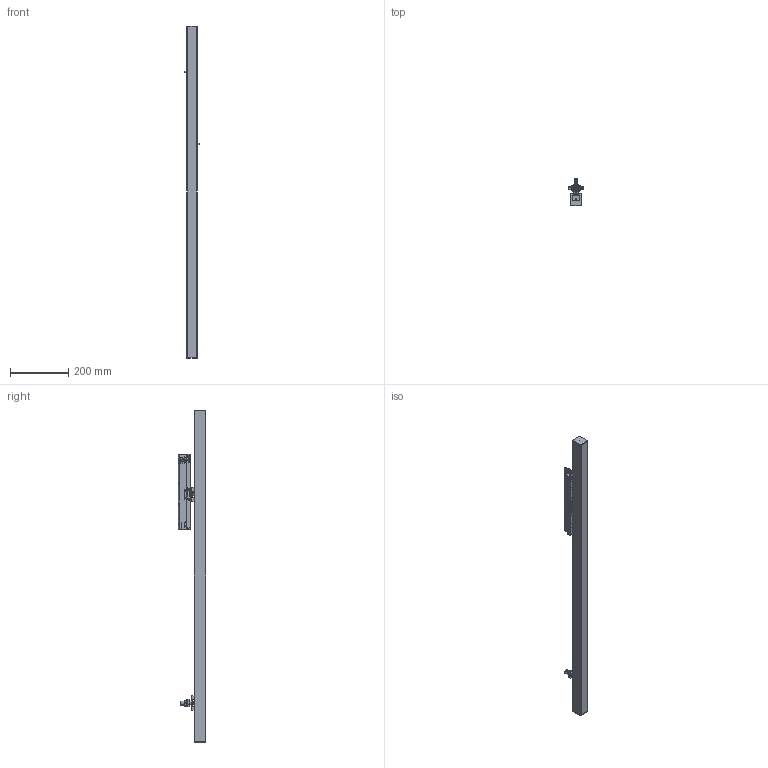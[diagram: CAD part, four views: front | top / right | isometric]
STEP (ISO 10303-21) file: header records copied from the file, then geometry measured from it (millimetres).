
FILE_DESCRIPTION (( 'STEP AP214' ), '1' );
FILE_NAME ('mLight Pico 4B 1142mm Track Module.STEP', '2024-06-04T03:30:30', ( '' ), ( '' ), 'SwSTEP 2.0', 'SolidWorks 2021', '' );
FILE_SCHEMA (( 'AUTOMOTIVE_DESIGN' ));
Length unit declared in the file: millimetre
Products named in the file (12): mLight Pico 4B 1142mm Track Module; flat head screw_am_M4 x 10mm Philips CSK; Tridonic Nipple M10 x 1mm; prevailing torque hex nut_am_M6 Nyloc Nut; Track Hook Powergear PRO_M142_White body; Tridonic Track Driver LC 40W NFC_White Body; RMEC0334 - Pico Endcap; Spacer MP13SP217; Evelo Track adaptor bracket RevC; flat washer regular_am_M6 Nylon Flat washer; Part9^Zelle Linear 3 CCT Track Module; pan cross head_am_M6 x 40mm Philips Pan
Assembly tree (16 placements, depth 2):
  mLight Pico 4B 1142mm Track Module
    Evelo Track adaptor bracket RevC  x2
    Tridonic Track Driver LC 40W NFC_White Body
    Tridonic Nipple M10 x 1mm
    Track Hook Powergear PRO_M142_White body
    Spacer MP13SP217
    pan cross head_am_M6 x 40mm Philips Pan
    flat washer regular_am_M6 Nylon Flat washer
    prevailing torque hex nut_am_M6 Nyloc Nut
    flat head screw_am_M4 x 10mm Philips CSK  x4
    Part9^Zelle Linear 3 CCT Track Module
    RMEC0334 - Pico Endcap  x2
Bounding box: 51.07 x 94.55 x 1142 mm (x, y, z)
Volume: 1571092.2 mm3; surface area: 315382.8 mm2
Topology: 15 solids, 28 shells, 5625 faces, 15510 edges, 9866 vertices
Faces by surface type: plane 2583, cylinder 1602, bspline 1049, torus 177, cone 170, sphere 44
Full cylindrical faces by diameter (mm): 2.5 x2, 3.3 x4, 4 x4, 5 x1, 6 x2, 6.5 x1, 6.6 x1, 6.87 x1, 8.4 x4, 12 x1, 12.7 x1, 13.5 x1, 18.8 x1, 25 x1
Entity records: 367738 total; most frequent: CARTESIAN_POINT 223172, ORIENTED_EDGE 30551, DIRECTION 17982, EDGE_CURVE 15290, VERTEX_POINT 9752, B_SPLINE_CURVE_WITH_KNOTS 7642, LINE 6200, VECTOR 6200
